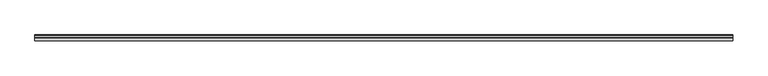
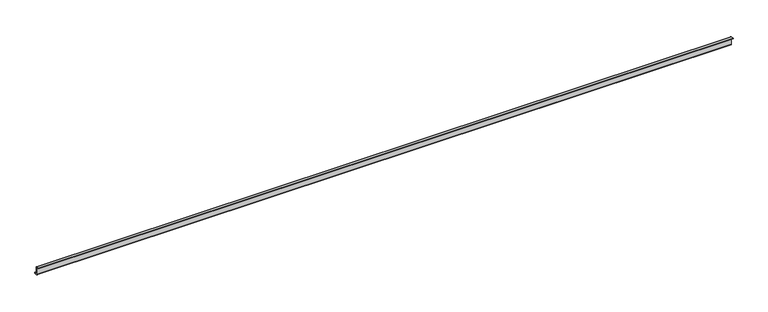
"""IFC4 building model written with IfcOpenShell, lengths in millimetres: proxy geometry, durlum_U1005 : durlum_U_1005_A."""

from ifc_helpers import new_model, si_unit, point, frame, frame_2d, origin, place, context, project, spatial, polyline, circle_curve, trimmed, segment, composite_curve, outline, extrude, source, transform, mapped, element, save


def generic_models_8a6f20a3(model_context):
    return source(origin(), model_context, "Body", "SweptSolid", [
        extrude(outline(composite_curve([segment(polyline([(-17.75, 50.0), (-1.25, 50.0)]), True, "CONTINUOUS"), segment(trimmed(circle_curve(frame_2d((-1.25, 47.5)), 2.5), [point((-1.25, 50.0))], [point((1.25, 47.5))], False, "CARTESIAN"), True, "CONTINUOUS"), segment(polyline([(1.25, 47.5), (1.25, 2.5)]), True, "CONTINUOUS"), segment(trimmed(circle_curve(frame_2d((2.5, 2.5)), 1.25), [point((1.25, 2.5))], [point((2.5, 1.25))], True, "CARTESIAN"), True, "CONTINUOUS"), segment(polyline([(2.5, 1.25), (14.5, 1.25)]), True, "CONTINUOUS"), segment(trimmed(circle_curve(frame_2d((14.5, 2.5)), 1.25), [point((14.5, 1.25))], [point((15.75, 2.5))], True, "CARTESIAN"), True, "CONTINUOUS"), segment(polyline([(15.75, 2.5), (15.75, 7.0), (17.0, 7.0), (17.0, 2.5)]), True, "CONTINUOUS"), segment(trimmed(circle_curve(frame_2d((14.5, 2.5)), 2.5), [point((17.0, 2.5))], [point((14.5, 0.0))], False, "CARTESIAN"), True, "CONTINUOUS"), segment(polyline([(14.5, 0.0), (2.5, 0.0)]), True, "CONTINUOUS"), segment(trimmed(circle_curve(frame_2d((2.5, 2.5)), 2.5), [point((2.5, 0.0))], [point((0.0, 2.5))], False, "CARTESIAN"), True, "CONTINUOUS"), segment(polyline([(0.0, 2.5), (0.0, 47.5)]), True, "CONTINUOUS"), segment(trimmed(circle_curve(frame_2d((-1.25, 47.5)), 1.25), [point((0.0, 47.5))], [point((-1.25, 48.75))], True, "CARTESIAN"), True, "CONTINUOUS"), segment(polyline([(-1.25, 48.75), (-17.75, 48.75), (-17.75, 50.0)]), True, "CONTINUOUS")], self_intersect=False)), frame((-2000.0, 0.0, 0.0), z_axis=(1.0, 0.0, 0.0), x_axis=(0.0, 1.0, 0.0)), (0.0, 0.0, 1.0), 4000.0),
    ])


if __name__ == "__main__":
    model = new_model("IFC4")
    model_context = context("Model", 3, world=origin())
    ifc_project = project(units=[si_unit("LENGTHUNIT", "METRE", prefix="MILLI")], contexts=[model_context])
    site = spatial("IfcSite", under=ifc_project)
    building = spatial("IfcBuilding", under=site)
    placement = place(None, origin())
    generic_models_shape = generic_models_8a6f20a3(model_context)
    element("IfcBuildingElementProxy", 1, Name="durlum_U1005 : durlum_U_1005_A", ObjectType="durlum_U1005 : durlum_U_1005_A", at=placement, inside=building, context=model_context, shape_type="MappedRepresentation", body=[
        mapped(generic_models_shape, transform((0.0, 0.0, 0.0), x_axis=(1.0, 0.0, 0.0), y_axis=(0.0, 1.0, 0.0), z_axis=(0.0, 0.0, 1.0))),
    ])
    save(model, "model.ifc")
